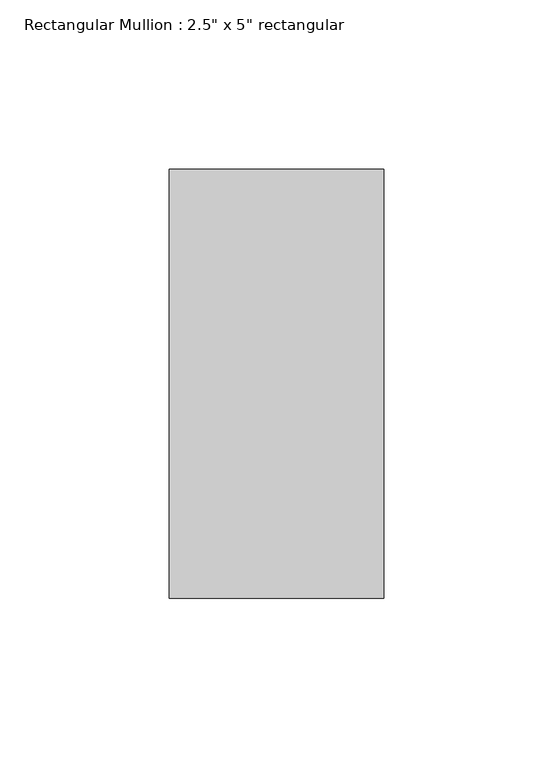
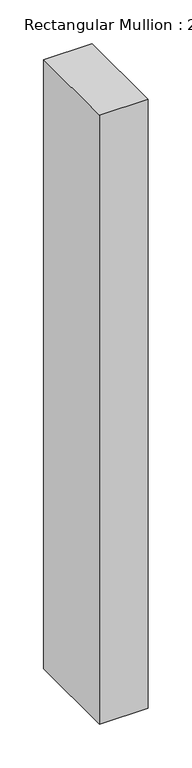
"""IFC4 building model written with IfcOpenShell, lengths in millimetres: member geometry."""

import ifcopenshell
import ifcopenshell.guid

model = None  # the IFC model being written
_history = None  # IfcOwnerHistory: only IFC2X3 demands one
_inside = {}  # id of a spatial element -> (the spatial element, [elements in it])
_under = {}  # id of a project, library or spatial element -> (it, [spatial elements below it])
_declared = {}  # id of a project -> (the project, [libraries it declares])
_typed = {}  # id of a type object -> (the type object, [elements of that type])
_made_of = {}  # id of a material, layer set ... -> (it, [elements and type objects made of it])


def new_model(schema):
    """Start an empty IFC model of exactly this schema.

    Asked for "IFC4X3", IfcOpenShell would pick the latest addendum, in which some entities
    have other attributes; the version numbers below select the first issue.
    IFC2X3 requires an IfcOwnerHistory on every rooted entity: one is made here for all.
    """
    global model, _history
    if schema == "IFC4X3":
        model = ifcopenshell.file(schema_version=(4, 3, 0, 0))
    else:
        model = ifcopenshell.file(schema=schema)
    _inside.clear()
    _under.clear()
    _declared.clear()
    _typed.clear()
    _made_of.clear()
    _history = None
    if model.schema == "IFC2X3":
        org = make("IfcOrganization", Name="unknown")
        user = make(
            "IfcPersonAndOrganization",
            ThePerson=make("IfcPerson", FamilyName="unknown"),
            TheOrganization=org,
        )
        app = make(
            "IfcApplication",
            ApplicationDeveloper=org,
            Version="unknown",
            ApplicationFullName="unknown",
            ApplicationIdentifier="unknown",
        )
        _history = make(
            "IfcOwnerHistory",
            OwningUser=user,
            OwningApplication=app,
            ChangeAction="ADDED",
            CreationDate=0,
        )
    return model


def make(cls, **values):
    """One entity of the class cls with the attributes given. An attribute that is None is left unset."""
    return model.create_entity(
        cls, **{name: value for name, value in values.items() if value is not None}
    )


def rooted(cls, **values):
    """An entity with a GlobalId (a new one), such as an element, a storey or a relation."""
    return make(cls, GlobalId=ifcopenshell.guid.new(), OwnerHistory=_history, **values)


def si_unit(unit_type, name, prefix=None):
    """IfcSIUnit, for example si_unit("LENGTHUNIT", "METRE", prefix="MILLI")."""
    return make("IfcSIUnit", UnitType=unit_type, Prefix=prefix, Name=name)


def assignment(units):
    """IfcUnitAssignment: the units of a project."""
    return None if units is None else make("IfcUnitAssignment", Units=units)


def point(xyz):
    """IfcCartesianPoint."""
    return None if xyz is None else make("IfcCartesianPoint", Coordinates=xyz)


def direction(xyz):
    """IfcDirection."""
    return None if xyz is None else make("IfcDirection", DirectionRatios=xyz)


def frame(location, z_axis=None, x_axis=None):
    """IfcAxis2Placement3D, a coordinate frame: its origin and axes. An axis left out is left unset."""
    return make(
        "IfcAxis2Placement3D",
        Location=point(location),
        Axis=direction(z_axis),
        RefDirection=direction(x_axis),
    )


def origin():
    """The frame at (0, 0, 0) with its axes left unset."""
    return frame((0.0, 0.0, 0.0))


def place(relative_to, where):
    """IfcLocalPlacement: puts the frame where relative to a parent placement (None: the world)."""
    return make(
        "IfcLocalPlacement", PlacementRelTo=relative_to, RelativePlacement=where
    )


def context(
    kind, dimensions, precision=None, world=None, true_north=None, identifier=None
):
    """IfcGeometricRepresentationContext, for example the 3D "Model" context."""
    return make(
        "IfcGeometricRepresentationContext",
        ContextIdentifier=identifier,
        ContextType=kind,
        CoordinateSpaceDimension=dimensions,
        Precision=precision,
        WorldCoordinateSystem=world,
        TrueNorth=true_north,
    )


def project(units=None, contexts=None):
    """IfcProject with its units and contexts."""
    return rooted(
        "IfcProject",
        Name="project",
        RepresentationContexts=contexts,
        UnitsInContext=assignment(units),
    )


def spatial(cls, under=None, at=None, **own):
    """A site, building, storey or space (cls), placed at a placement, below another one or the project."""
    s = rooted(cls, ObjectPlacement=at, **own)
    if under is not None:
        _under.setdefault(under.id(), (under, []))[1].append(s)
    return s


def polyline(points):
    """IfcPolyline through the points."""
    return make("IfcPolyline", Points=[point(p) for p in points])


def outline(outer, holes=None, kind="AREA"):
    """IfcArbitraryClosedProfileDef: a profile drawn as a closed curve; with holes, ...WithVoids."""
    if holes is None:
        return make("IfcArbitraryClosedProfileDef", ProfileType=kind, OuterCurve=outer)
    return make(
        "IfcArbitraryProfileDefWithVoids",
        ProfileType=kind,
        OuterCurve=outer,
        InnerCurves=holes,
    )


def extrude(swept, where, along, depth):
    """IfcExtrudedAreaSolid: the profile swept, set in the frame where, extruded along a direction by depth."""
    return make(
        "IfcExtrudedAreaSolid",
        SweptArea=swept,
        Position=where,
        ExtrudedDirection=direction(along),
        Depth=depth,
    )


def shape(context_of_items, identifier, shape_type, items):
    """IfcShapeRepresentation: the items that make up one representation, for example the "Body"."""
    return make(
        "IfcShapeRepresentation",
        ContextOfItems=context_of_items,
        RepresentationIdentifier=identifier,
        RepresentationType=shape_type,
        Items=items,
    )


def source(mapping_origin, context_of_items, identifier, shape_type, items):
    """IfcRepresentationMap: a shape defined once, which mapped items show again and again."""
    return make(
        "IfcRepresentationMap",
        MappingOrigin=mapping_origin,
        MappedRepresentation=shape(context_of_items, identifier, shape_type, items),
    )


def transform(
    local_origin,
    x_axis=None,
    y_axis=None,
    z_axis=None,
    scale=None,
    scale2=None,
    scale3=None,
    uniform=True,
):
    """IfcCartesianTransformationOperator3D, or its non-uniform kind. x_axis, y_axis, z_axis: its Axis1, 2, 3."""
    if uniform:
        return make(
            "IfcCartesianTransformationOperator3D",
            Axis1=direction(x_axis),
            Axis2=direction(y_axis),
            LocalOrigin=point(local_origin),
            Scale=scale,
            Axis3=direction(z_axis),
        )
    return make(
        "IfcCartesianTransformationOperator3DnonUniform",
        Axis1=direction(x_axis),
        Axis2=direction(y_axis),
        LocalOrigin=point(local_origin),
        Scale=scale,
        Axis3=direction(z_axis),
        Scale2=scale2,
        Scale3=scale3,
    )


def mapped(mapping_source, mapping_target):
    """IfcMappedItem: shows the shape of a source again, moved by a transform."""
    return make(
        "IfcMappedItem", MappingSource=mapping_source, MappingTarget=mapping_target
    )


def made_of(thing, what):
    """Note that an element or type object is made of a material, layer set ...; save() writes the relation."""
    if what is not None:
        _made_of.setdefault(what.id(), (what, []))[1].append(thing)
    return thing


def element(
    cls,
    number,
    at=None,
    inside=None,
    cuts=None,
    type_object=None,
    material=None,
    context=None,
    identifier="Body",
    shape_type=None,
    held_by="IfcProductDefinitionShape",
    body=None,
    shapes=None,
    **own,
):
    """One element of the class cls, such as IfcWall. Its Tag is "e" and its number.

    at: its placement. inside: the storey or other place that contains it. cuts: it is an
    opening in that element (IfcRelVoidsElement). A single representation is given by context,
    identifier, shape_type and body (its items); several are given by shapes. held_by: the class
    of the entity that holds the representations. save() writes the other relations.
    """
    e = rooted(cls, Tag="e%d" % number, ObjectPlacement=at, **own)
    if body is not None:
        shapes = [shape(context, identifier, shape_type, body)]
    if shapes is not None:
        e.Representation = make(held_by, Representations=shapes)
    if inside is not None:
        _inside.setdefault(inside.id(), (inside, []))[1].append(e)
    if cuts is not None:
        rooted(
            "IfcRelVoidsElement", RelatingBuildingElement=cuts, RelatedOpeningElement=e
        )
    if type_object is not None:
        _typed.setdefault(type_object.id(), (type_object, []))[1].append(e)
    return made_of(e, material)


def aggregate(whole, parts):
    """IfcRelAggregates: a whole, such as a stair, and the parts it consists of."""
    return rooted("IfcRelAggregates", RelatingObject=whole, RelatedObjects=parts)


def save(model, path):
    """Write the relations noted so far, then the file.

    IfcRelAggregates (storeys below a building ...), IfcRelContainedInSpatialStructure (elements
    in a storey), IfcRelDefinesByType, IfcRelAssociatesMaterial and IfcRelDeclares: one each for
    every whole, place, type object, material and project.
    """
    for whole, parts in _under.values():
        aggregate(whole, parts)
    for where, things in _inside.values():
        rooted(
            "IfcRelContainedInSpatialStructure",
            RelatedElements=things,
            RelatingStructure=where,
        )
    for kind, things in _typed.values():
        rooted("IfcRelDefinesByType", RelatedObjects=things, RelatingType=kind)
    for what, things in _made_of.values():
        rooted("IfcRelAssociatesMaterial", RelatedObjects=things, RelatingMaterial=what)
    for by, libraries in _declared.values():
        rooted("IfcRelDeclares", RelatingContext=by, RelatedDefinitions=libraries)
    model.write(path)


def member_091e92f8(model_context):
    return source(origin(), model_context, "Body", "SweptSolid", [
        extrude(outline(polyline([(0.0, 63.5), (0.0, -63.5), (-63.5, -63.5), (-63.5, 63.5), (0.0, 63.5)])), frame((0.0, 0.0, -844.55), z_axis=(0.0, 0.0, 1.0), x_axis=(1.0, 0.0, 0.0)), (0.0, 0.0, 1.0), 844.55),
    ])


if __name__ == "__main__":
    model = new_model("IFC4")
    model_context = context("Model", 3, world=origin())
    ifc_project = project(units=[si_unit("LENGTHUNIT", "METRE", prefix="MILLI")], contexts=[model_context])
    site = spatial("IfcSite", under=ifc_project)
    building = spatial("IfcBuilding", under=site)
    placement = place(None, origin())
    member_shape = member_091e92f8(model_context)
    element("IfcMember", 1, ObjectType="Rectangular Mullion : 2.5\" x 5\" rectangular", at=placement, inside=building, context=model_context, shape_type="MappedRepresentation", body=[
        mapped(member_shape, transform((0.0, 0.0, 0.0), x_axis=(1.0, 0.0, 0.0), y_axis=(0.0, 1.0, 0.0), z_axis=(0.0, 0.0, 1.0))),
    ])
    save(model, "model.ifc")
